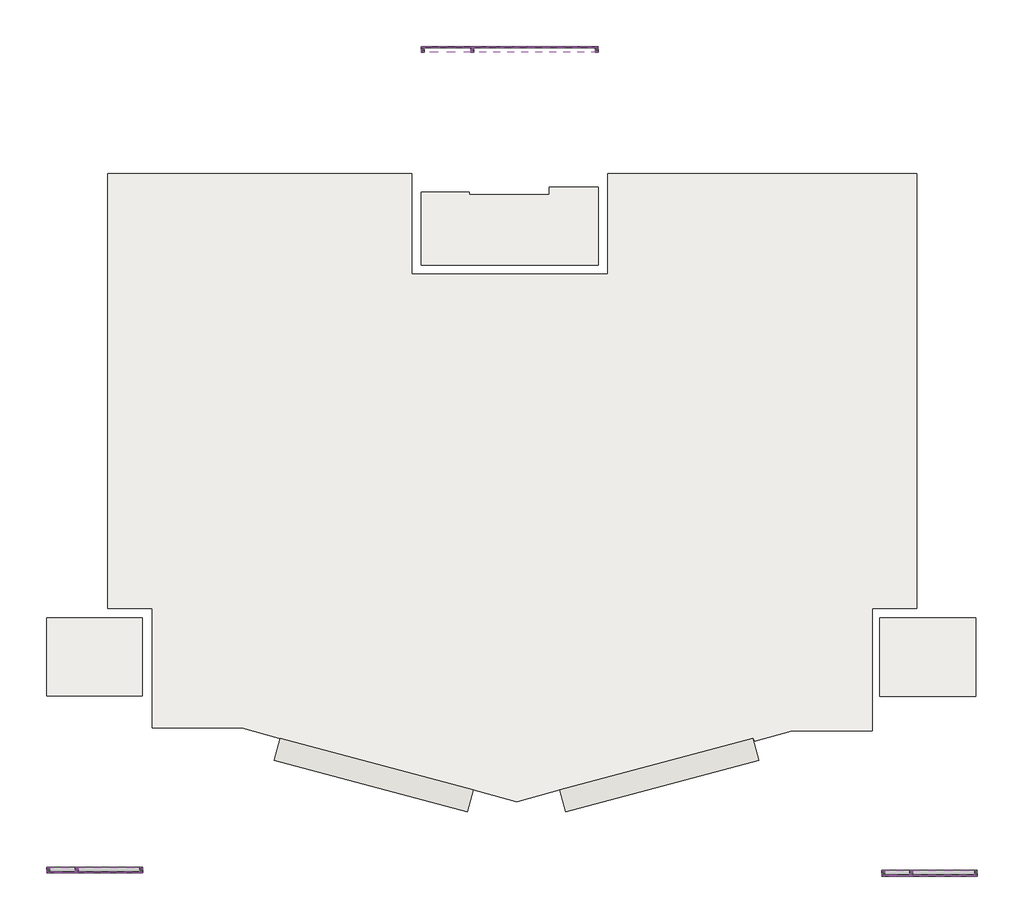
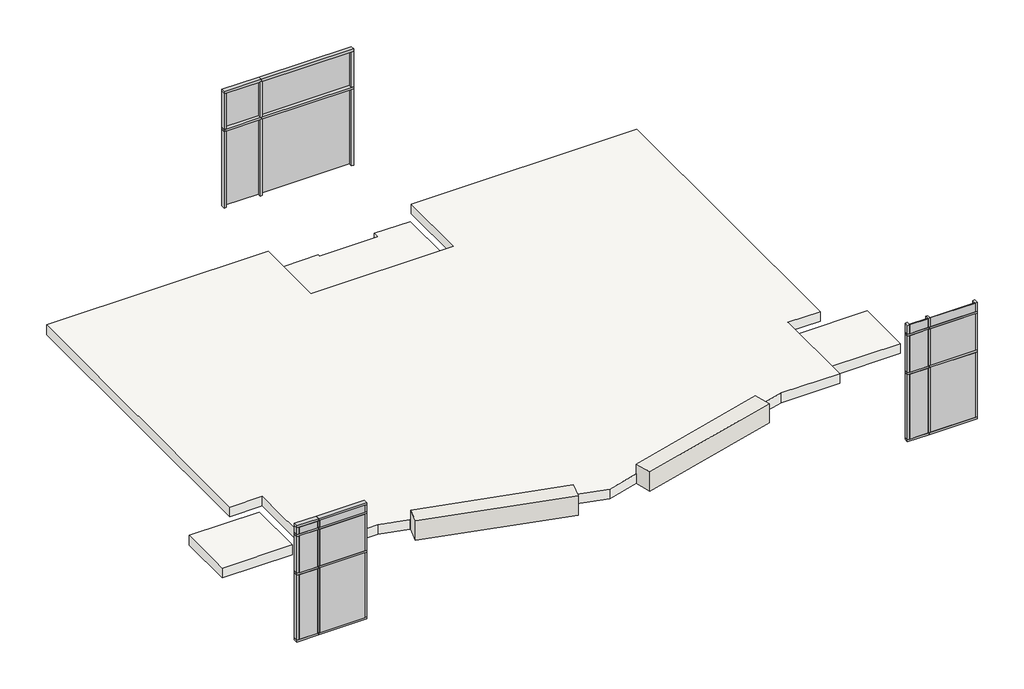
# One storey: 42 members, 16 plates, 2 slabs, 2 walls, 1 roof.
"""IFC4 building model written with IfcOpenShell, lengths in millimetres."""

from ifc_helpers import new_model, si_unit, frame, origin, place, context, project, spatial, polyline, outline, extrude, transform, mapped, element, save
from components import glazed_panel_glazed_panel_d3c8244d, glazed_panel_glazed_panel_50b95296, glazed_panel_glazed_panel_fd67323b, glazed_panel_glazed_panel_86524bdb, glazed_panel_glazed_panel_5e909d7d, glazed_panel_glazed_panel_a4489fb3, glazed_panel_glazed_panel_8b6f093a, glazed_panel_glazed_panel_338ff57e, glazed_panel_glazed_panel_4f181820, glazed_panel_glazed_panel_88f23e64, glazed_panel_glazed_panel_51226729, glazed_panel_glazed_panel_514b6ab9

model = new_model("IFC4")

# Units and contexts
model_context = context("Model", 3, world=origin())
ifc_project = project(units=[si_unit("LENGTHUNIT", "METRE", prefix="MILLI")], contexts=[model_context])

# Site, building, storey
site = spatial("IfcSite", under=ifc_project)
building = spatial("IfcBuilding", under=site)
storey = spatial("IfcBuildingStorey", under=building, Name="4th Flr. Cnst.", Elevation=10972.8)

# Members
placement = place(None, origin())
element("IfcMember", 1, ObjectType="Rectangular Mullion : 2.5\" x 5\" rectangular", at=placement, inside=storey, context=model_context, shape_type="SweptSolid", body=[
    extrude(outline(polyline([(-1748.953382, -5683.4046074), (-1685.453382, -5683.4046074), (-1685.453382, -5810.4046074), (-1748.953382, -5810.4046074), (-1748.953382, -5683.4046074)])), frame((0.0, 0.0, 11036.3), z_axis=(0.0, 0.0, 1.0), x_axis=(1.0, 0.0, 0.0)), (0.0, 0.0, 1.0), 2038.35),
])
element("IfcMember", 2, ObjectType="Rectangular Mullion : 2.5\" x 5\" rectangular", at=placement, inside=storey, context=model_context, shape_type="SweptSolid", body=[
    extrude(outline(polyline([(-1748.953382, -5683.4046074), (-1685.453382, -5683.4046074), (-1685.453382, -5810.4046074), (-1748.953382, -5810.4046074), (-1748.953382, -5683.4046074)])), frame((0.0, 0.0, 14357.35), z_axis=(0.0, 0.0, 1.0), x_axis=(1.0, 0.0, 0.0)), (0.0, 0.0, 1.0), 209.55),
])
element("IfcMember", 3, ObjectType="Rectangular Mullion : 2.5\" x 5\" rectangular", at=placement, inside=storey, context=model_context, shape_type="SweptSolid", body=[
    extrude(outline(polyline([(-1748.953382, -5683.4046074), (-1685.453382, -5683.4046074), (-1685.453382, -5810.4046074), (-1748.953382, -5810.4046074), (-1748.953382, -5683.4046074)])), frame((0.0, 0.0, 13138.15), z_axis=(0.0, 0.0, 1.0), x_axis=(1.0, 0.0, 0.0)), (0.0, 0.0, 1.0), 1155.7),
])
element("IfcMember", 4, ObjectType="Rectangular Mullion : 2.5\" x 5\" rectangular", at=placement, inside=storey, context=model_context, shape_type="SweptSolid", body=[
    extrude(outline(polyline([(-280.515882, -5683.4046074), (-280.515882, -5810.4046074), (-1717.203382, -5810.4046074), (-1717.203382, -5683.4046074), (-280.515882, -5683.4046074)])), frame((0.0, 0.0, 10972.8), z_axis=(0.0, 0.0, 1.0), x_axis=(1.0, 0.0, 0.0)), (0.0, 0.0, 1.0), 63.5),
])
element("IfcMember", 5, ObjectType="Rectangular Mullion : 2.5\" x 5\" rectangular", at=placement, inside=storey, context=model_context, shape_type="SweptSolid", body=[
    extrude(outline(polyline([(-2363.315882, -5683.4046074), (-2299.815882, -5683.4046074), (-2299.815882, -5810.4046074), (-2363.315882, -5810.4046074), (-2363.315882, -5683.4046074)])), frame((0.0, 0.0, 11036.3), z_axis=(0.0, 0.0, 1.0), x_axis=(1.0, 0.0, 0.0)), (0.0, 0.0, 1.0), 2038.35),
])
element("IfcMember", 6, ObjectType="Rectangular Mullion : 2.5\" x 5\" rectangular", at=placement, inside=storey, context=model_context, shape_type="SweptSolid", body=[
    extrude(outline(polyline([(-280.515882, -5683.4046074), (-280.515882, -5810.4046074), (-344.015882, -5810.4046074), (-344.015882, -5683.4046074), (-280.515882, -5683.4046074)])), frame((0.0, 0.0, 14357.35), z_axis=(0.0, 0.0, 1.0), x_axis=(1.0, 0.0, 0.0)), (0.0, 0.0, 1.0), 209.55),
])
element("IfcMember", 7, ObjectType="Rectangular Mullion : 2.5\" x 5\" rectangular", at=placement, inside=storey, context=model_context, shape_type="SweptSolid", body=[
    extrude(outline(polyline([(-1717.203382, -5810.4046074), (-1717.203382, -5683.4046074), (-280.515882, -5683.4046074), (-280.515882, -5810.4046074), (-1717.203382, -5810.4046074)])), frame((0.0, 0.0, 14293.85), z_axis=(0.0, 0.0, 1.0), x_axis=(1.0, 0.0, 0.0)), (0.0, 0.0, 1.0), 63.5),
])
element("IfcMember", 8, ObjectType="Rectangular Mullion : 2.5\" x 5\" rectangular", at=placement, inside=storey, context=model_context, shape_type="SweptSolid", body=[
    extrude(outline(polyline([(-2363.315882, -5810.4046074), (-2363.315882, -5683.4046074), (-1717.203382, -5683.4046074), (-1717.203382, -5810.4046074), (-2363.315882, -5810.4046074)])), frame((0.0, 0.0, 14293.85), z_axis=(0.0, 0.0, 1.0), x_axis=(1.0, 0.0, 0.0)), (0.0, 0.0, 1.0), 63.5),
])
element("IfcMember", 9, ObjectType="Rectangular Mullion : 2.5\" x 5\" rectangular", at=placement, inside=storey, context=model_context, shape_type="SweptSolid", body=[
    extrude(outline(polyline([(-1717.203382, -5810.4046074), (-1717.203382, -5683.4046074), (-280.515882, -5683.4046074), (-280.515882, -5810.4046074), (-1717.203382, -5810.4046074)])), frame((0.0, 0.0, 13074.65), z_axis=(0.0, 0.0, 1.0), x_axis=(1.0, 0.0, 0.0)), (0.0, 0.0, 1.0), 63.5),
])
element("IfcMember", 10, ObjectType="Rectangular Mullion : 2.5\" x 5\" rectangular", at=placement, inside=storey, context=model_context, shape_type="SweptSolid", body=[
    extrude(outline(polyline([(-2363.315882, -5810.4046074), (-2363.315882, -5683.4046074), (-1717.203382, -5683.4046074), (-1717.203382, -5810.4046074), (-2363.315882, -5810.4046074)])), frame((0.0, 0.0, 13074.65), z_axis=(0.0, 0.0, 1.0), x_axis=(1.0, 0.0, 0.0)), (0.0, 0.0, 1.0), 63.5),
])
element("IfcMember", 11, ObjectType="Rectangular Mullion : 2.5\" x 5\" rectangular", at=placement, inside=storey, context=model_context, shape_type="SweptSolid", body=[
    extrude(outline(polyline([(-1717.203382, -5683.4046074), (-1717.203382, -5810.4046074), (-2363.315882, -5810.4046074), (-2363.315882, -5683.4046074), (-1717.203382, -5683.4046074)])), frame((0.0, 0.0, 10972.8), z_axis=(0.0, 0.0, 1.0), x_axis=(1.0, 0.0, 0.0)), (0.0, 0.0, 1.0), 63.5),
])
element("IfcMember", 12, ObjectType="Rectangular Mullion : 2.5\" x 5\" rectangular", at=placement, inside=storey, context=model_context, shape_type="SweptSolid", body=[
    extrude(outline(polyline([(-2363.315882, -5683.4046074), (-2299.815882, -5683.4046074), (-2299.815882, -5810.4046074), (-2363.315882, -5810.4046074), (-2363.315882, -5683.4046074)])), frame((0.0, 0.0, 14357.35), z_axis=(0.0, 0.0, 1.0), x_axis=(1.0, 0.0, 0.0)), (0.0, 0.0, 1.0), 209.55),
])
element("IfcMember", 13, ObjectType="Rectangular Mullion : 2.5\" x 5\" rectangular", at=placement, inside=storey, context=model_context, shape_type="SweptSolid", body=[
    extrude(outline(polyline([(-2363.315882, -5683.4046074), (-2299.815882, -5683.4046074), (-2299.815882, -5810.4046074), (-2363.315882, -5810.4046074), (-2363.315882, -5683.4046074)])), frame((0.0, 0.0, 13138.15), z_axis=(0.0, 0.0, 1.0), x_axis=(1.0, 0.0, 0.0)), (0.0, 0.0, 1.0), 1155.7),
])
element("IfcMember", 14, ObjectType="Rectangular Mullion : 2.5\" x 5\" rectangular", at=placement, inside=storey, context=model_context, shape_type="SweptSolid", body=[
    extrude(outline(polyline([(-280.515882, -5683.4046074), (-280.515882, -5810.4046074), (-344.015882, -5810.4046074), (-344.015882, -5683.4046074), (-280.515882, -5683.4046074)])), frame((0.0, 0.0, 13138.15), z_axis=(0.0, 0.0, 1.0), x_axis=(1.0, 0.0, 0.0)), (0.0, 0.0, 1.0), 1155.7),
])
element("IfcMember", 15, ObjectType="Rectangular Mullion : 2.5\" x 5\" rectangular", at=placement, inside=storey, context=model_context, shape_type="SweptSolid", body=[
    extrude(outline(polyline([(-280.515882, -5683.4046074), (-280.515882, -5810.4046074), (-344.015882, -5810.4046074), (-344.015882, -5683.4046074), (-280.515882, -5683.4046074)])), frame((0.0, 0.0, 11036.3), z_axis=(0.0, 0.0, 1.0), x_axis=(1.0, 0.0, 0.0)), (0.0, 0.0, 1.0), 2038.35),
])
element("IfcMember", 16, ObjectType="Rectangular Mullion : 2.5\" x 5\" rectangular", at=placement, inside=storey, context=model_context, shape_type="SweptSolid", body=[
    extrude(outline(polyline([(16386.646618, -5752.9636494), (16450.146618, -5752.9636494), (16450.146618, -5879.9636494), (16386.646618, -5879.9636494), (16386.646618, -5752.9636494)])), frame((0.0, 0.0, 11036.3), z_axis=(0.0, 0.0, 1.0), x_axis=(1.0, 0.0, 0.0)), (0.0, 0.0, 1.0), 2038.35),
])
element("IfcMember", 17, ObjectType="Rectangular Mullion : 2.5\" x 5\" rectangular", at=placement, inside=storey, context=model_context, shape_type="SweptSolid", body=[
    extrude(outline(polyline([(16386.646618, -5752.9636494), (16450.146618, -5752.9636494), (16450.146618, -5879.9636494), (16386.646618, -5879.9636494), (16386.646618, -5752.9636494)])), frame((0.0, 0.0, 14357.35), z_axis=(0.0, 0.0, 1.0), x_axis=(1.0, 0.0, 0.0)), (0.0, 0.0, 1.0), 273.05),
])
element("IfcMember", 18, ObjectType="Rectangular Mullion : 2.5\" x 5\" rectangular", at=placement, inside=storey, context=model_context, shape_type="SweptSolid", body=[
    extrude(outline(polyline([(16386.646618, -5752.9636494), (16450.146618, -5752.9636494), (16450.146618, -5879.9636494), (16386.646618, -5879.9636494), (16386.646618, -5752.9636494)])), frame((0.0, 0.0, 13138.15), z_axis=(0.0, 0.0, 1.0), x_axis=(1.0, 0.0, 0.0)), (0.0, 0.0, 1.0), 1155.7),
])
element("IfcMember", 19, ObjectType="Rectangular Mullion : 2.5\" x 5\" rectangular", at=placement, inside=storey, context=model_context, shape_type="SweptSolid", body=[
    extrude(outline(polyline([(17855.084118, -5752.9636494), (17855.084118, -5879.9636494), (16418.396618, -5879.9636494), (16418.396618, -5752.9636494), (17855.084118, -5752.9636494)])), frame((0.0, 0.0, 10972.8), z_axis=(0.0, 0.0, 1.0), x_axis=(1.0, 0.0, 0.0)), (0.0, 0.0, 1.0), 63.5),
])
element("IfcMember", 20, ObjectType="Rectangular Mullion : 2.5\" x 5\" rectangular", at=placement, inside=storey, context=model_context, shape_type="SweptSolid", body=[
    extrude(outline(polyline([(15772.284118, -5752.9636494), (15835.784118, -5752.9636494), (15835.784118, -5879.9636494), (15772.284118, -5879.9636494), (15772.284118, -5752.9636494)])), frame((0.0, 0.0, 11036.3), z_axis=(0.0, 0.0, 1.0), x_axis=(1.0, 0.0, 0.0)), (0.0, 0.0, 1.0), 2038.35),
])
element("IfcMember", 21, ObjectType="Rectangular Mullion : 2.5\" x 5\" rectangular", at=placement, inside=storey, context=model_context, shape_type="SweptSolid", body=[
    extrude(outline(polyline([(17855.084118, -5752.9636494), (17855.084118, -5879.9636494), (17791.584118, -5879.9636494), (17791.584118, -5752.9636494), (17855.084118, -5752.9636494)])), frame((0.0, 0.0, 14357.35), z_axis=(0.0, 0.0, 1.0), x_axis=(1.0, 0.0, 0.0)), (0.0, 0.0, 1.0), 273.05),
])
element("IfcMember", 22, ObjectType="Rectangular Mullion : 2.5\" x 5\" rectangular", at=placement, inside=storey, context=model_context, shape_type="SweptSolid", body=[
    extrude(outline(polyline([(16418.396618, -5879.9636494), (16418.396618, -5752.9636494), (17855.084118, -5752.9636494), (17855.084118, -5879.9636494), (16418.396618, -5879.9636494)])), frame((0.0, 0.0, 14293.85), z_axis=(0.0, 0.0, 1.0), x_axis=(1.0, 0.0, 0.0)), (0.0, 0.0, 1.0), 63.5),
])
element("IfcMember", 23, ObjectType="Rectangular Mullion : 2.5\" x 5\" rectangular", at=placement, inside=storey, context=model_context, shape_type="SweptSolid", body=[
    extrude(outline(polyline([(15772.284118, -5879.9636494), (15772.284118, -5752.9636494), (16418.396618, -5752.9636494), (16418.396618, -5879.9636494), (15772.284118, -5879.9636494)])), frame((0.0, 0.0, 14293.85), z_axis=(0.0, 0.0, 1.0), x_axis=(1.0, 0.0, 0.0)), (0.0, 0.0, 1.0), 63.5),
])
element("IfcMember", 24, ObjectType="Rectangular Mullion : 2.5\" x 5\" rectangular", at=placement, inside=storey, context=model_context, shape_type="SweptSolid", body=[
    extrude(outline(polyline([(16418.396618, -5879.9636494), (16418.396618, -5752.9636494), (17855.084118, -5752.9636494), (17855.084118, -5879.9636494), (16418.396618, -5879.9636494)])), frame((0.0, 0.0, 13074.65), z_axis=(0.0, 0.0, 1.0), x_axis=(1.0, 0.0, 0.0)), (0.0, 0.0, 1.0), 63.5),
])
element("IfcMember", 25, ObjectType="Rectangular Mullion : 2.5\" x 5\" rectangular", at=placement, inside=storey, context=model_context, shape_type="SweptSolid", body=[
    extrude(outline(polyline([(15772.284118, -5879.9636494), (15772.284118, -5752.9636494), (16418.396618, -5752.9636494), (16418.396618, -5879.9636494), (15772.284118, -5879.9636494)])), frame((0.0, 0.0, 13074.65), z_axis=(0.0, 0.0, 1.0), x_axis=(1.0, 0.0, 0.0)), (0.0, 0.0, 1.0), 63.5),
])
element("IfcMember", 26, ObjectType="Rectangular Mullion : 2.5\" x 5\" rectangular", at=placement, inside=storey, context=model_context, shape_type="SweptSolid", body=[
    extrude(outline(polyline([(16418.396618, -5752.9636494), (16418.396618, -5879.9636494), (15772.284118, -5879.9636494), (15772.284118, -5752.9636494), (16418.396618, -5752.9636494)])), frame((0.0, 0.0, 10972.8), z_axis=(0.0, 0.0, 1.0), x_axis=(1.0, 0.0, 0.0)), (0.0, 0.0, 1.0), 63.5),
])
element("IfcMember", 27, ObjectType="Rectangular Mullion : 2.5\" x 5\" rectangular", at=placement, inside=storey, context=model_context, shape_type="SweptSolid", body=[
    extrude(outline(polyline([(15772.284118, -5752.9636494), (15835.784118, -5752.9636494), (15835.784118, -5879.9636494), (15772.284118, -5879.9636494), (15772.284118, -5752.9636494)])), frame((0.0, 0.0, 14357.35), z_axis=(0.0, 0.0, 1.0), x_axis=(1.0, 0.0, 0.0)), (0.0, 0.0, 1.0), 273.05),
])
element("IfcMember", 28, ObjectType="Rectangular Mullion : 2.5\" x 5\" rectangular", at=placement, inside=storey, context=model_context, shape_type="SweptSolid", body=[
    extrude(outline(polyline([(15772.284118, -5752.9636494), (15835.784118, -5752.9636494), (15835.784118, -5879.9636494), (15772.284118, -5879.9636494), (15772.284118, -5752.9636494)])), frame((0.0, 0.0, 13138.15), z_axis=(0.0, 0.0, 1.0), x_axis=(1.0, 0.0, 0.0)), (0.0, 0.0, 1.0), 1155.7),
])
element("IfcMember", 29, ObjectType="Rectangular Mullion : 2.5\" x 5\" rectangular", at=placement, inside=storey, context=model_context, shape_type="SweptSolid", body=[
    extrude(outline(polyline([(17855.084118, -5752.9636494), (17855.084118, -5879.9636494), (17791.584118, -5879.9636494), (17791.584118, -5752.9636494), (17855.084118, -5752.9636494)])), frame((0.0, 0.0, 13138.15), z_axis=(0.0, 0.0, 1.0), x_axis=(1.0, 0.0, 0.0)), (0.0, 0.0, 1.0), 1155.7),
])
element("IfcMember", 30, ObjectType="Rectangular Mullion : 2.5\" x 5\" rectangular", at=placement, inside=storey, context=model_context, shape_type="SweptSolid", body=[
    extrude(outline(polyline([(17855.084118, -5752.9636494), (17855.084118, -5879.9636494), (17791.584118, -5879.9636494), (17791.584118, -5752.9636494), (17855.084118, -5752.9636494)])), frame((0.0, 0.0, 11036.3), z_axis=(0.0, 0.0, 1.0), x_axis=(1.0, 0.0, 0.0)), (0.0, 0.0, 1.0), 2038.35),
])
element("IfcMember", 31, ObjectType="Rectangular Mullion : 2.5\" x 5\" rectangular", at=placement, inside=storey, context=model_context, shape_type="SweptSolid", body=[
    extrude(outline(polyline([(6909.0124515, 12025.0152895), (6845.5124515, 12025.0152895), (6845.5124515, 12152.0152895), (6909.0124515, 12152.0152895), (6909.0124515, 12025.0152895)])), frame((0.0, 0.0, 10972.8), z_axis=(0.0, 0.0, 1.0), x_axis=(1.0, 0.0, 0.0)), (0.0, 0.0, 1.0), 2406.65),
])
element("IfcMember", 32, ObjectType="Rectangular Mullion : 2.5\" x 5\" rectangular", at=placement, inside=storey, context=model_context, shape_type="SweptSolid", body=[
    extrude(outline(polyline([(6909.0124515, 12025.0152895), (6845.5124515, 12025.0152895), (6845.5124515, 12152.0152895), (6909.0124515, 12152.0152895), (6909.0124515, 12025.0152895)])), frame((0.0, 0.0, 13442.95), z_axis=(0.0, 0.0, 1.0), x_axis=(1.0, 0.0, 0.0)), (0.0, 0.0, 1.0), 1123.95),
])
element("IfcMember", 33, ObjectType="Rectangular Mullion : 2.5\" x 5\" rectangular", at=placement, inside=storey, context=model_context, shape_type="SweptSolid", body=[
    extrude(outline(polyline([(9618.6821195, 12025.0152895), (9555.1821195, 12025.0152895), (9555.1821195, 12152.0152895), (9618.6821195, 12152.0152895), (9618.6821195, 12025.0152895)])), frame((0.0, 0.0, 10972.8), z_axis=(0.0, 0.0, 1.0), x_axis=(1.0, 0.0, 0.0)), (0.0, 0.0, 1.0), 2406.65),
])
element("IfcMember", 34, ObjectType="Rectangular Mullion : 2.5\" x 5\" rectangular", at=placement, inside=storey, context=model_context, shape_type="SweptSolid", body=[
    extrude(outline(polyline([(9618.6821195, 12025.0152895), (9555.1821195, 12025.0152895), (9555.1821195, 12152.0152895), (9618.6821195, 12152.0152895), (9618.6821195, 12025.0152895)])), frame((0.0, 0.0, 13442.95), z_axis=(0.0, 0.0, 1.0), x_axis=(1.0, 0.0, 0.0)), (0.0, 0.0, 1.0), 1123.95),
])
element("IfcMember", 35, ObjectType="Rectangular Mullion : 2.5\" x 5\" rectangular", at=placement, inside=storey, context=model_context, shape_type="SweptSolid", body=[
    extrude(outline(polyline([(6877.2624515, 12152.0152895), (6877.2624515, 12025.0152895), (5767.859118, 12025.0152895), (5767.859118, 12152.0152895), (6877.2624515, 12152.0152895)])), frame((0.0, 0.0, 13379.45), z_axis=(0.0, 0.0, 1.0), x_axis=(1.0, 0.0, 0.0)), (0.0, 0.0, 1.0), 63.5),
])
element("IfcMember", 36, ObjectType="Rectangular Mullion : 2.5\" x 5\" rectangular", at=placement, inside=storey, context=model_context, shape_type="SweptSolid", body=[
    extrude(outline(polyline([(9618.6821195, 12152.0152895), (9618.6821195, 12025.0152895), (6877.2624515, 12025.0152895), (6877.2624515, 12152.0152895), (9618.6821195, 12152.0152895)])), frame((0.0, 0.0, 13379.45), z_axis=(0.0, 0.0, 1.0), x_axis=(1.0, 0.0, 0.0)), (0.0, 0.0, 1.0), 63.5),
])
element("IfcMember", 37, ObjectType="Rectangular Mullion : 2.5\" x 5\" rectangular", at=placement, inside=storey, context=model_context, shape_type="SweptSolid", body=[
    extrude(outline(polyline([(5767.859118, 12025.0152895), (5767.859118, 12152.0152895), (5831.359118, 12152.0152895), (5831.359118, 12025.0152895), (5767.859118, 12025.0152895)])), frame((0.0, 0.0, 13442.95), z_axis=(0.0, 0.0, 1.0), x_axis=(1.0, 0.0, 0.0)), (0.0, 0.0, 1.0), 1123.95),
])
element("IfcMember", 38, ObjectType="Rectangular Mullion : 2.5\" x 5\" rectangular", at=placement, inside=storey, context=model_context, shape_type="SweptSolid", body=[
    extrude(outline(polyline([(5767.859118, 12025.0152895), (5767.859118, 12152.0152895), (5831.359118, 12152.0152895), (5831.359118, 12025.0152895), (5767.859118, 12025.0152895)])), frame((0.0, 0.0, 10972.8), z_axis=(0.0, 0.0, 1.0), x_axis=(1.0, 0.0, 0.0)), (0.0, 0.0, 1.0), 2406.65),
])
element("IfcMember", 39, ObjectType="Rectangular Mullion : 2.5\" x 5\" rectangular", at=placement, inside=storey, context=model_context, shape_type="SweptSolid", body=[
    extrude(outline(polyline([(9618.6821195, 12152.0152895), (9618.6821195, 12025.0152895), (6877.2624515, 12025.0152895), (6877.2624515, 12152.0152895), (9618.6821195, 12152.0152895)])), frame((0.0, 0.0, 14566.9), z_axis=(0.0, 0.0, 1.0), x_axis=(1.0, 0.0, 0.0)), (0.0, 0.0, 1.0), 63.5),
])
element("IfcMember", 40, ObjectType="Rectangular Mullion : 2.5\" x 5\" rectangular", at=placement, inside=storey, context=model_context, shape_type="SweptSolid", body=[
    extrude(outline(polyline([(6877.2624515, 12152.0152895), (6877.2624515, 12025.0152895), (5767.859118, 12025.0152895), (5767.859118, 12152.0152895), (6877.2624515, 12152.0152895)])), frame((0.0, 0.0, 14566.9), z_axis=(0.0, 0.0, 1.0), x_axis=(1.0, 0.0, 0.0)), (0.0, 0.0, 1.0), 63.5),
])
element("IfcMember", 41, ObjectType="Rectangular Mullion : 2.5\" x 5\" rectangular", at=placement, inside=storey, context=model_context, shape_type="SweptSolid", body=[
    extrude(outline(polyline([(-2363.315882, -5810.4046074), (-2363.315882, -5683.4046074), (-1717.203382, -5683.4046074), (-1717.203382, -5810.4046074), (-2363.315882, -5810.4046074)])), frame((0.0, 0.0, 14566.9), z_axis=(0.0, 0.0, 1.0), x_axis=(1.0, 0.0, 0.0)), (0.0, 0.0, 1.0), 63.5),
])
element("IfcMember", 42, ObjectType="Rectangular Mullion : 2.5\" x 5\" rectangular", at=placement, inside=storey, context=model_context, shape_type="SweptSolid", body=[
    extrude(outline(polyline([(-1717.203382, -5810.4046074), (-1717.203382, -5683.4046074), (-280.515882, -5683.4046074), (-280.515882, -5810.4046074), (-1717.203382, -5810.4046074)])), frame((0.0, 0.0, 14566.9), z_axis=(0.0, 0.0, 1.0), x_axis=(1.0, 0.0, 0.0)), (0.0, 0.0, 1.0), 63.5),
])

# Plates
glazed_panel_glazed_panel_shape = glazed_panel_glazed_panel_d3c8244d(model_context)
element("IfcPlate", 43, ObjectType="Glazed Panel : Glazed Panel", at=placement, inside=storey, context=model_context, shape_type="MappedRepresentation", body=[
    mapped(glazed_panel_glazed_panel_shape, transform((-1014.734632, -5746.9046074, 11036.3), x_axis=(-1.0, 0.0, 0.0), y_axis=(0.0, -1.0, 0.0), z_axis=(0.0, 0.0, 1.0))),
])
element("IfcPlate", 44, ObjectType="Glazed Panel : Glazed Panel", at=placement, inside=storey, context=model_context, shape_type="MappedRepresentation", body=[
    mapped(glazed_panel_glazed_panel_shape, transform((17120.865368, -5816.4636494, 11036.3), x_axis=(-1.0, 0.0, 0.0), y_axis=(0.0, -1.0, 0.0), z_axis=(0.0, 0.0, 1.0))),
])
glazed_panel_glazed_panel_2_shape = glazed_panel_glazed_panel_50b95296(model_context)
element("IfcPlate", 45, ObjectType="Glazed Panel : Glazed Panel", at=placement, inside=storey, context=model_context, shape_type="MappedRepresentation", body=[
    mapped(glazed_panel_glazed_panel_2_shape, transform((-1014.734632, -5746.9046074, 14357.35), x_axis=(-1.0, 0.0, 0.0), y_axis=(0.0, -1.0, 0.0), z_axis=(0.0, 0.0, 1.0))),
])
glazed_panel_glazed_panel_3_shape = glazed_panel_glazed_panel_fd67323b(model_context)
element("IfcPlate", 46, ObjectType="Glazed Panel : Glazed Panel", at=placement, inside=storey, context=model_context, shape_type="MappedRepresentation", body=[
    mapped(glazed_panel_glazed_panel_3_shape, transform((-2024.384632, -5746.9046074, 11036.3), x_axis=(-1.0, 0.0, 0.0), y_axis=(0.0, -1.0, 0.0), z_axis=(0.0, 0.0, 1.0))),
])
element("IfcPlate", 47, ObjectType="Glazed Panel : Glazed Panel", at=placement, inside=storey, context=model_context, shape_type="MappedRepresentation", body=[
    mapped(glazed_panel_glazed_panel_3_shape, transform((16111.215368, -5816.4636494, 11036.3), x_axis=(-1.0, 0.0, 0.0), y_axis=(0.0, -1.0, 0.0), z_axis=(0.0, 0.0, 1.0))),
])
glazed_panel_glazed_panel_4_shape = glazed_panel_glazed_panel_86524bdb(model_context)
element("IfcPlate", 48, ObjectType="Glazed Panel : Glazed Panel", at=placement, inside=storey, context=model_context, shape_type="MappedRepresentation", body=[
    mapped(glazed_panel_glazed_panel_4_shape, transform((-2024.384632, -5746.9046074, 14357.35), x_axis=(-1.0, 0.0, 0.0), y_axis=(0.0, -1.0, 0.0), z_axis=(0.0, 0.0, 1.0))),
])
glazed_panel_glazed_panel_5_shape = glazed_panel_glazed_panel_5e909d7d(model_context)
element("IfcPlate", 49, ObjectType="Glazed Panel : Glazed Panel", at=placement, inside=storey, context=model_context, shape_type="MappedRepresentation", body=[
    mapped(glazed_panel_glazed_panel_5_shape, transform((-1014.734632, -5746.9046074, 13138.15), x_axis=(-1.0, 0.0, 0.0), y_axis=(0.0, -1.0, 0.0), z_axis=(0.0, 0.0, 1.0))),
])
element("IfcPlate", 50, ObjectType="Glazed Panel : Glazed Panel", at=placement, inside=storey, context=model_context, shape_type="MappedRepresentation", body=[
    mapped(glazed_panel_glazed_panel_5_shape, transform((17120.865368, -5816.4636494, 13138.15), x_axis=(-1.0, 0.0, 0.0), y_axis=(0.0, -1.0, 0.0), z_axis=(0.0, 0.0, 1.0))),
])
glazed_panel_glazed_panel_6_shape = glazed_panel_glazed_panel_a4489fb3(model_context)
element("IfcPlate", 51, ObjectType="Glazed Panel : Glazed Panel", at=placement, inside=storey, context=model_context, shape_type="MappedRepresentation", body=[
    mapped(glazed_panel_glazed_panel_6_shape, transform((-2024.384632, -5746.9046074, 13138.15), x_axis=(-1.0, 0.0, 0.0), y_axis=(0.0, -1.0, 0.0), z_axis=(0.0, 0.0, 1.0))),
])
element("IfcPlate", 52, ObjectType="Glazed Panel : Glazed Panel", at=placement, inside=storey, context=model_context, shape_type="MappedRepresentation", body=[
    mapped(glazed_panel_glazed_panel_6_shape, transform((16111.215368, -5816.4636494, 13138.15), x_axis=(-1.0, 0.0, 0.0), y_axis=(0.0, -1.0, 0.0), z_axis=(0.0, 0.0, 1.0))),
])
glazed_panel_glazed_panel_7_shape = glazed_panel_glazed_panel_8b6f093a(model_context)
element("IfcPlate", 53, ObjectType="Glazed Panel : Glazed Panel", at=placement, inside=storey, context=model_context, shape_type="MappedRepresentation", body=[
    mapped(glazed_panel_glazed_panel_7_shape, transform((17120.865368, -5816.4636494, 14357.35), x_axis=(-1.0, 0.0, 0.0), y_axis=(0.0, -1.0, 0.0), z_axis=(0.0, 0.0, 1.0))),
])
glazed_panel_glazed_panel_8_shape = glazed_panel_glazed_panel_338ff57e(model_context)
element("IfcPlate", 54, ObjectType="Glazed Panel : Glazed Panel", at=placement, inside=storey, context=model_context, shape_type="MappedRepresentation", body=[
    mapped(glazed_panel_glazed_panel_8_shape, transform((16111.215368, -5816.4636494, 14357.35), x_axis=(-1.0, 0.0, 0.0), y_axis=(0.0, -1.0, 0.0), z_axis=(0.0, 0.0, 1.0))),
])
glazed_panel_glazed_panel_9_shape = glazed_panel_glazed_panel_4f181820(model_context)
element("IfcPlate", 55, ObjectType="Glazed Panel : Glazed Panel", at=placement, inside=storey, context=model_context, shape_type="MappedRepresentation", body=[
    mapped(glazed_panel_glazed_panel_9_shape, transform((6338.4357848, 12088.5152895, 10972.8), x_axis=(1.0, 0.0, 0.0), y_axis=(0.0, 1.0, 0.0), z_axis=(0.0, 0.0, 1.0))),
])
glazed_panel_glazed_panel_10_shape = glazed_panel_glazed_panel_88f23e64(model_context)
element("IfcPlate", 56, ObjectType="Glazed Panel : Glazed Panel", at=placement, inside=storey, context=model_context, shape_type="MappedRepresentation", body=[
    mapped(glazed_panel_glazed_panel_10_shape, transform((8232.0972855, 12088.5152895, 10972.8), x_axis=(1.0, 0.0, 0.0), y_axis=(0.0, 1.0, 0.0), z_axis=(0.0, 0.0, 1.0))),
])
glazed_panel_glazed_panel_11_shape = glazed_panel_glazed_panel_51226729(model_context)
element("IfcPlate", 57, ObjectType="Glazed Panel : Glazed Panel", at=placement, inside=storey, context=model_context, shape_type="MappedRepresentation", body=[
    mapped(glazed_panel_glazed_panel_11_shape, transform((6338.4357848, 12088.5152895, 13442.95), x_axis=(1.0, 0.0, 0.0), y_axis=(0.0, 1.0, 0.0), z_axis=(0.0, 0.0, 1.0))),
])
glazed_panel_glazed_panel_12_shape = glazed_panel_glazed_panel_514b6ab9(model_context)
element("IfcPlate", 58, ObjectType="Glazed Panel : Glazed Panel", at=placement, inside=storey, context=model_context, shape_type="MappedRepresentation", body=[
    mapped(glazed_panel_glazed_panel_12_shape, transform((8232.0972855, 12088.5152895, 13442.95), x_axis=(1.0, 0.0, 0.0), y_axis=(0.0, 1.0, 0.0), z_axis=(0.0, 0.0, 1.0))),
])

# Roof
element("IfcRoof", 59, ObjectType="Roof 1", at=placement, inside=storey, context=model_context, shape_type="SweptSolid", body=[
    extrude(outline(polyline([(-1040.928382, 9389.0083186), (5564.659118, 9389.0083186), (5564.659118, 7201.4333186), (9821.8821195, 7201.4333186), (9821.8821195, 9389.0083186), (16532.696618, 9389.0083186), (16532.696618, -62.9666814), (15569.084118, -62.9666814), (15569.084118, -2727.8209645), (13832.5774236, -2727.8209645), (13010.171015, -2948.1840975), (12992.243624, -2881.2781634), (8780.8000017, -4009.731081), (7842.721618, -4261.0884263), (6904.6432343, -4009.731081), (2690.2201333, -2880.4798145), (1867.8137247, -2660.1166814), (-77.315882, -2660.1166814), (-77.315882, -62.9666814), (-1040.928382, -62.9666814), (-1040.928382, 9389.0083186)])), frame((0.0, 0.0, 10972.8), z_axis=(0.0, 0.0, 1.0), x_axis=(1.0, 0.0, 0.0)), (0.0, 0.0, 1.0), 304.8),
])

# Slabs
element("IfcSlab", 60, ObjectType="Floor 1", at=placement, inside=storey, context=model_context, shape_type="SweptSolid", body=[
    extrude(outline(polyline([(-2368.973575, -265.8666845), (-286.173575, -265.8666845), (-286.173575, -1966.5580373), (-2368.973575, -1966.5580373), (-2368.973575, -265.8666845)])), frame((0.0, 0.0, 10668.0), z_axis=(0.0, 0.0, 1.0), x_axis=(1.0, 0.0, 0.0)), (0.0, 0.0, 1.0), 304.8),
    extrude(outline(polyline([(15735.2141461, -270.6291845), (17818.0141461, -270.6291845), (17818.0141461, -1971.3205373), (15735.2141461, -1971.3205373), (15735.2141461, -270.6291845)])), frame((0.0, 0.0, 10668.0), z_axis=(0.0, 0.0, 1.0), x_axis=(1.0, 0.0, 0.0)), (0.0, 0.0, 1.0), 304.8),
])
element("IfcSlab", 61, ObjectType="Floor 1", at=placement, inside=storey, context=model_context, shape_type="SweptSolid", body=[
    extrude(outline(polyline([(9619.0600891, 7405.8038647), (5768.2370876, 7405.8038647), (5768.2370876, 8987.8358382), (6813.9879533, 8987.8358382), (6813.9879533, 8929.8038647), (8552.2600891, 8929.8038647), (8550.1002988, 9099.1052376), (9619.0600891, 9099.1052376), (9619.0600891, 7405.8038647)])), frame((0.0, 0.0, 10668.0), z_axis=(0.0, 0.0, 1.0), x_axis=(1.0, 0.0, 0.0)), (0.0, 0.0, 1.0), 304.8),
])

# Walls
element("IfcWall", 62, ObjectType="Co-house - Exterior - Brick on CMU", at=placement, inside=storey, context=model_context, shape_type="SweptSolid", body=[
    extrude(outline(polyline([(6775.2175356, -4487.8238617), (2579.1953215, -3363.503098), (2707.3883946, -2885.0800362), (6903.4106086, -4009.4007999), (6775.2175356, -4487.8238617)])), frame((0.0, 0.0, 10972.8), z_axis=(0.0, 0.0, 1.0), x_axis=(1.0, 0.0, 0.0)), (0.0, 0.0, 1.0), 609.6),
])
element("IfcWall", 63, ObjectType="Co-house - Exterior - Brick on CMU", at=placement, inside=storey, context=model_context, shape_type="SweptSolid", body=[
    extrude(outline(polyline([(13103.2684358, -3364.3014469), (8910.2257005, -4487.8238617), (8782.0326274, -4009.4007999), (12975.0753627, -2885.8783852), (13103.2684358, -3364.3014469)])), frame((0.0, 0.0, 10972.8), z_axis=(0.0, 0.0, 1.0), x_axis=(1.0, 0.0, 0.0)), (0.0, 0.0, 1.0), 609.6),
])

save(model, "model.ifc")
